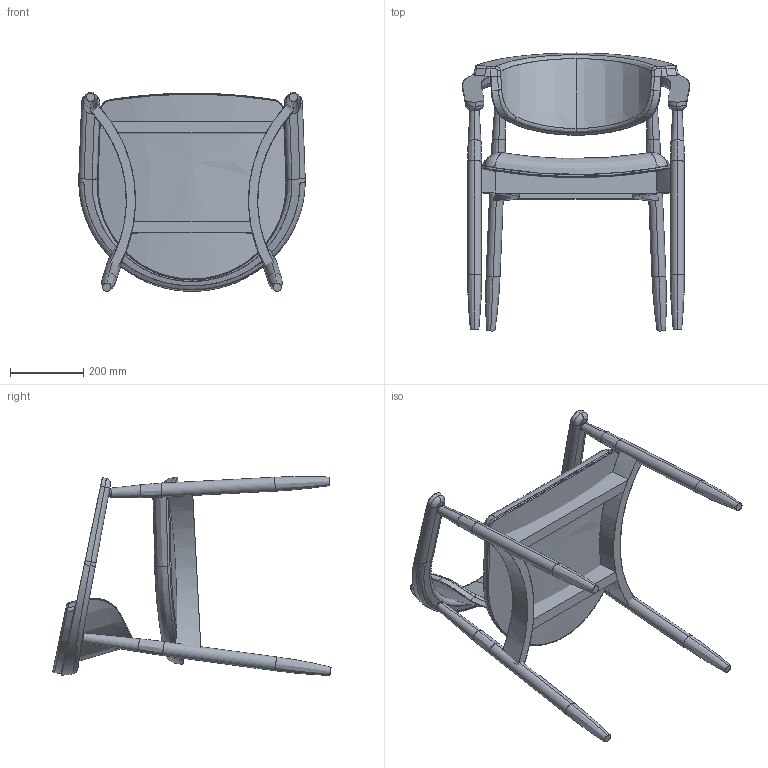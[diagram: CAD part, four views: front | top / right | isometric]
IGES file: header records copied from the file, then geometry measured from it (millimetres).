
Start section: SolidWorks IGES file using analytic representation for surfaces
Global section: file name: C:\Users\adao\Documents\Trab Adao\Desenho técnico PRODUÇÃO\J M S\Catalogo MORE 2016\JOANNE\CADEIRÃO\3D Cadeirão JOANNE M954C.IGS; native system: SolidWorks 2016; preprocessor: SolidWorks 2016; author: Adao; date: 161007.104403; units: millimetre
Bounding box: 617.8 x 758.8 x 542.82 mm (x, y, z)
Surface area: 1594701.4 mm2 (no closed solid volume)
Topology: 0 solids, 0 shells, 223 faces, 2957 edges, 2950 vertices
Faces by surface type: bspline 155, revolution 68
